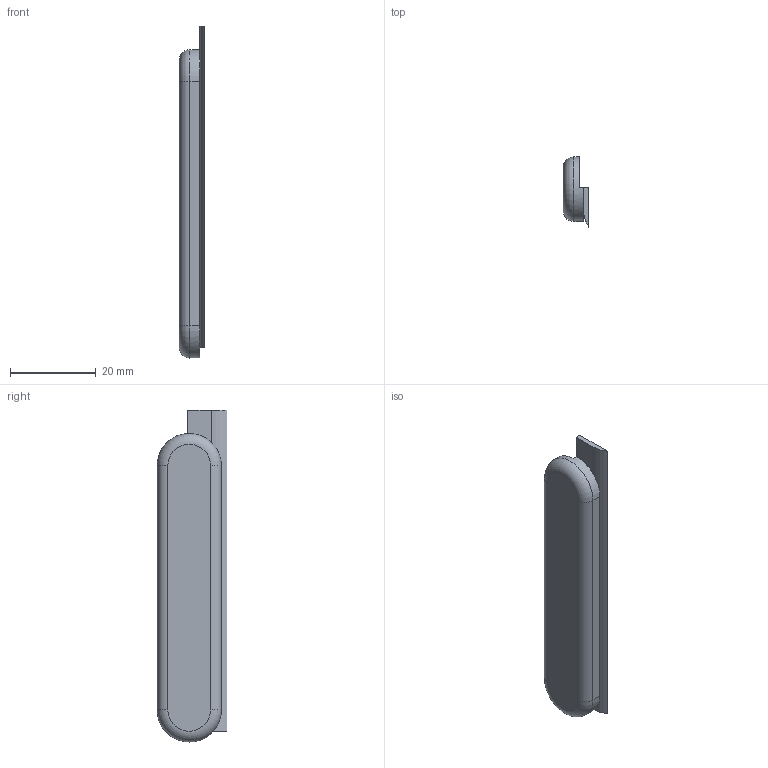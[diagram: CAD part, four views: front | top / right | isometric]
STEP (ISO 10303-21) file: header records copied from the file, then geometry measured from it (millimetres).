
FILE_DESCRIPTION(('Open CASCADE Model'),'2;1');
FILE_NAME('ptt_cap_orange_72mm','2026-09-04T19:55:25',('Author'),( 'Open CASCADE'),'Open CASCADE STEP processor 7.8','build123d', 'Unknown');
FILE_SCHEMA(('AUTOMOTIVE_DESIGN { 1 0 10303 214 1 1 1 1 }'));
Length unit declared in the file: millimetre
Products named in the file (1): ptt_cap_orange_72mm
Bounding box: 6 x 16.3 x 77.5 mm (x, y, z)
Volume: 4978.5 mm3; surface area: 3390.7 mm2
Topology: 1 solids, 1 shells, 17 faces, 40 edges, 25 vertices
Faces by surface type: plane 10, cylinder 5, torus 2
Entity records: 1039 total; most frequent: CARTESIAN_POINT 224, DIRECTION 150, LINE 83, VECTOR 83, ORIENTED_EDGE 80, PCURVE 80, DEFINITIONAL_REPRESENTATION 80, EDGE_CURVE 40
